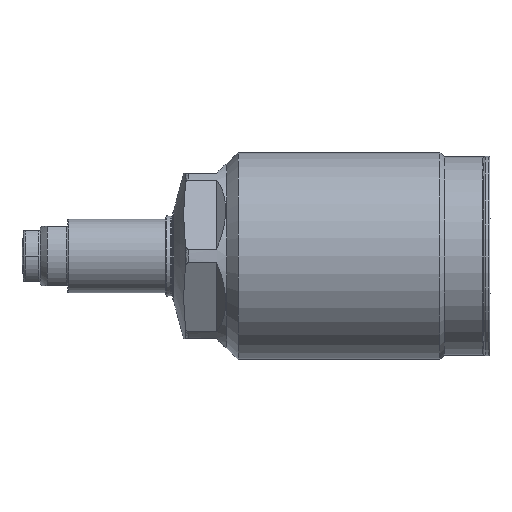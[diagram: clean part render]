
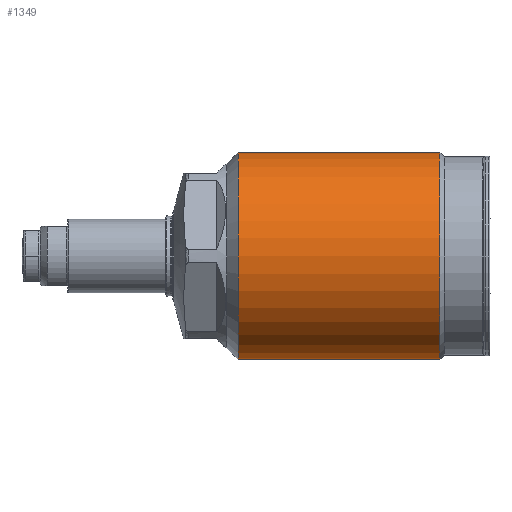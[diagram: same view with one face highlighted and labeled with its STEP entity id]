
A CAD part, left-side view. The second image highlights one B-rep face of the part: STEP entity #1349.
In plain terms, the highlighted cylindrical face has radius 22.5 mm (diameter 45 mm), a partial arc.
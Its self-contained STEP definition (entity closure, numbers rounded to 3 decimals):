
#299=CYLINDRICAL_SURFACE('',#5961,22.5);
#799=LINE('',#9368,#1100);
#800=LINE('',#9372,#1101);
#1100=VECTOR('',#7339,1.);
#1101=VECTOR('',#7342,1.);
#1349=ADVANCED_FACE('',(#1773),#299,.T.);
#1773=FACE_OUTER_BOUND('',#2140,.T.);
#2140=EDGE_LOOP('',(#3150,#3151,#3152,#3153));
#3150=ORIENTED_EDGE('',*,*,#4784,.T.);
#3151=ORIENTED_EDGE('',*,*,#4852,.T.);
#3152=ORIENTED_EDGE('',*,*,#4786,.F.);
#3153=ORIENTED_EDGE('',*,*,#4851,.F.);
#4202=VERTEX_POINT('',#9363);
#4203=VERTEX_POINT('',#9365);
#4204=VERTEX_POINT('',#9369);
#4205=VERTEX_POINT('',#9371);
#4784=EDGE_CURVE('',#4204,#4202,#799,.T.);
#4786=EDGE_CURVE('',#4205,#4203,#800,.T.);
#4851=EDGE_CURVE('',#4204,#4205,#5330,.T.);
#4852=EDGE_CURVE('',#4202,#4203,#5331,.T.);
#5330=CIRCLE('',#5958,22.5);
#5331=CIRCLE('',#5960,22.5);
#5958=AXIS2_PLACEMENT_3D('',#9668,#7495,#7496);
#5960=AXIS2_PLACEMENT_3D('',#9670,#7499,#7500);
#5961=AXIS2_PLACEMENT_3D('',#9671,#7501,#7502);
#7339=DIRECTION('',(0.,1.,0.));
#7342=DIRECTION('',(0.,1.,0.));
#7495=DIRECTION('',(0.,-1.,0.));
#7496=DIRECTION('',(0.,0.,-1.));
#7499=DIRECTION('',(0.,-1.,0.));
#7500=DIRECTION('',(0.,0.,-1.));
#7501=DIRECTION('',(0.,-1.,0.));
#7502=DIRECTION('',(0.,0.,1.));
#9363=CARTESIAN_POINT('',(0.,62.023,22.5));
#9365=CARTESIAN_POINT('',(0.,62.023,-22.5));
#9368=CARTESIAN_POINT('',(0.,0.,22.5));
#9369=CARTESIAN_POINT('',(0.,18.023,22.5));
#9371=CARTESIAN_POINT('',(0.,18.023,-22.5));
#9372=CARTESIAN_POINT('',(0.,0.,-22.5));
#9668=CARTESIAN_POINT('',(0.,18.023,0.));
#9670=CARTESIAN_POINT('',(0.,62.023,0.));
#9671=CARTESIAN_POINT('',(0.,0.,0.));
